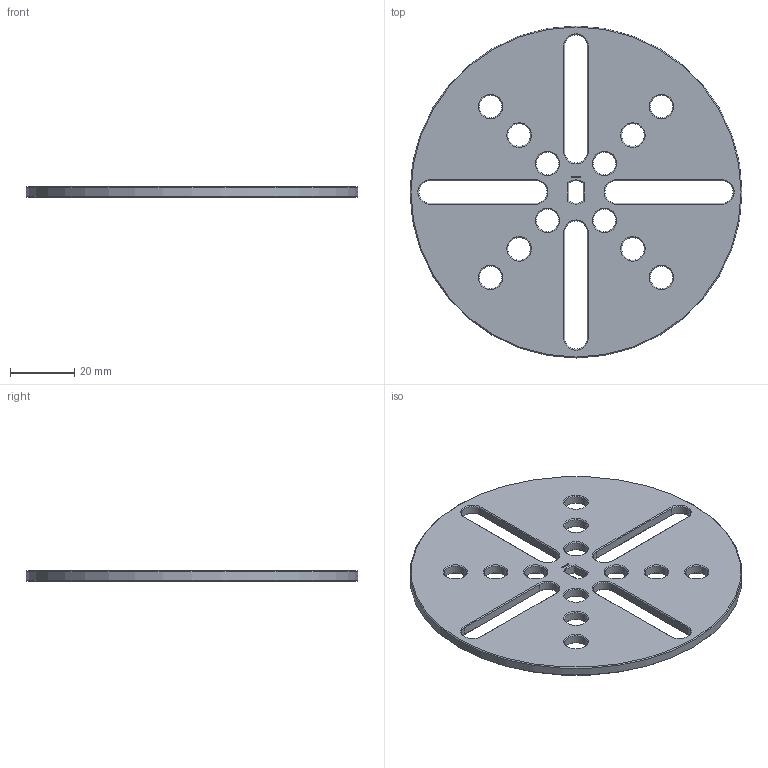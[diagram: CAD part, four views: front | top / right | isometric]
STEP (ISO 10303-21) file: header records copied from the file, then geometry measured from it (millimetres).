
FILE_DESCRIPTION(/* description */ (''),/* implementation_level */ '2;1');
FILE_NAME(/* name */ '/Users/paulokiefe/Desktop/STEMFIE/Fasteners/Washers/Fixed/Washer WSR FXD BU0.25x8.25 - SPN-WSR-0030 v1.step',/* time_stamp */ '2020-09-27T23:22:00+02:00',/* author */ (''),/* organization */ (''),/* preprocessor_version */ 'ST-DEVELOPER v18.1',/* originating_system */ 'Autodesk Translation Framework v9.3.0.1241',/* authorisation */ '');
FILE_SCHEMA (('AUTOMOTIVE_DESIGN { 1 0 10303 214 3 1 1 }'));
Length unit declared in the file: millimetre
Products named in the file (1): Washer WSR FXD BU0.25x8.25 - SPN-WSR-0030
Bounding box: 103.12 x 103.12 x 3.12 mm (x, y, z)
Volume: 21129.6 mm3; surface area: 16242.3 mm2
Topology: 1 solids, 1 shells, 345 faces, 927 edges, 596 vertices
Faces by surface type: plane 276, cone 46, cylinder 23
Full cylindrical faces by diameter (mm): 7 x12, 103.125 x1
Entity records: 10674 total; most frequent: CARTESIAN_POINT 1893, ORIENTED_EDGE 1854, DIRECTION 1703, EDGE_CURVE 927, LINE 827, VECTOR 827, VERTEX_POINT 596, AXIS2_PLACEMENT_3D 438
